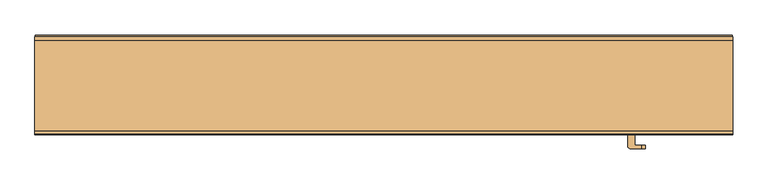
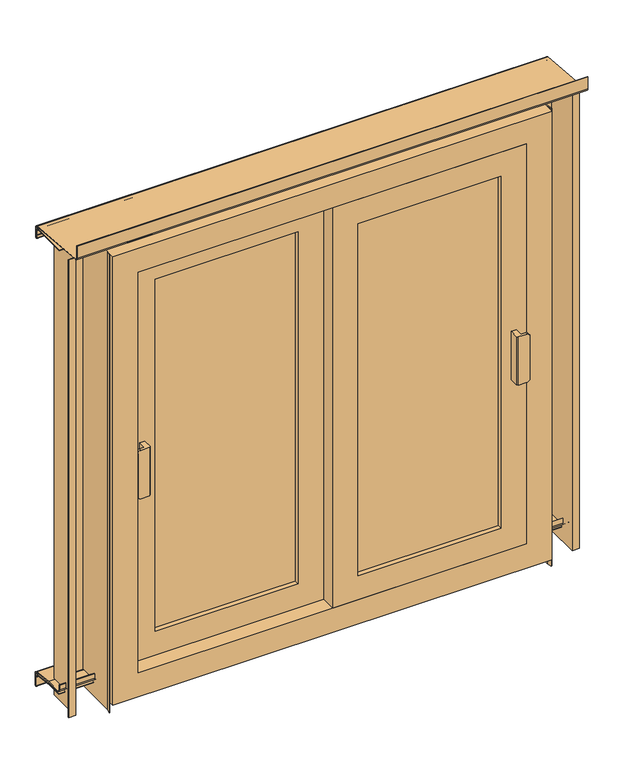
"""IFC4 building model written with IfcOpenShell, lengths in millimetres: door geometry, Fenetre pour Tenda Horizontal : Fenetre pour Tenda H."""

from ifc_helpers import new_model, si_unit, point, frame, frame_2d, origin, place, context, project, spatial, polyline, circle_curve, trimmed, segment, composite_curve, outline, extrude, faceted_brep, source, transform, mapped, element, save
from ifc_brep_helpers import plane_surface, cylinder_surface, advanced_brep


def door_d6fd2e2d(model_context):
    return source(origin(), model_context, "Body", "SolidModel", [
        advanced_brep(
        [(350.0, -60.7721751, 400.0), (350.0, -43.2408569, 400.0), (360.0, -43.2408569, 400.0), (360.0, -58.2408569, 400.0), (369.0477825, -58.2408569, 400.0), (369.0477825, -63.2408569, 400.0), (352.4686818, -63.2408569, 400.0), (350.0, -60.7721751, 500.0), (352.4686818, -63.2408569, 500.0), (369.0477825, -63.2408569, 500.0), (369.0477825, -58.2408569, 500.0), (360.0, -58.2408569, 500.0), (360.0, -43.2408569, 500.0), (350.0, -43.2408569, 500.0), (375.0, -58.2408569, 494.0477825), (375.0, -58.2408569, 405.9522175), (375.0, -63.2408569, 494.0477825), (375.0, -63.2408569, 405.9522175)],
        [
            (0, 1),
            (1, 2),
            (2, 3),
            (3, 4),
            (4, 5),
            (5, 6),
            (6, 0),
            (7, 8),
            (8, 9),
            (9, 10),
            (10, 11),
            (11, 12),
            (12, 13),
            (13, 7),
            (0, 7),
            (13, 1),
            (12, 2),
            (11, 3),
            (10, 14, circle_curve(frame((369.0477825, -58.2408569, 494.0477825), z_axis=(0.0, 1.0, 0.0), x_axis=(1.0, 0.0, 0.0)), 5.9522175)),
            (14, 15),
            (15, 4, circle_curve(frame((369.0477825, -58.2408569, 405.9522175), z_axis=(0.0, 1.0, 0.0), x_axis=(1.0, 0.0, 0.0)), 5.9522175)),
            (14, 16),
            (16, 17),
            (17, 15),
            (8, 6),
            (5, 17, circle_curve(frame((369.0477825, -63.2408569, 405.9522175), z_axis=(0.0, -1.0, 0.0), x_axis=(1.0, 0.0, 0.0)), 5.9522175)),
            (16, 9, circle_curve(frame((369.0477825, -63.2408569, 494.0477825), z_axis=(0.0, -1.0, 0.0), x_axis=(1.0, 0.0, 0.0)), 5.9522175)),
        ],
        [
            plane_surface(frame((350.0, -43.2408569, 400.0), z_axis=(0.0, 0.0, -1.0), x_axis=(0.0, 1.0, 0.0))),
            plane_surface(frame((350.0, -43.2408569, 500.0), z_axis=(0.0, 0.0, 1.0), x_axis=(0.0, -1.0, 0.0))),
            plane_surface(frame((350.0, -60.7721751, 400.0), z_axis=(-1.0, 0.0, 0.0), x_axis=(0.0, 0.0, 1.0))),
            plane_surface(frame((350.0, -43.2408569, 400.0), z_axis=(0.0, 1.0, 0.0), x_axis=(0.0, 0.0, 1.0))),
            plane_surface(frame((360.0, -43.2408569, 400.0), z_axis=(1.0, 0.0, 0.0), x_axis=(0.0, 0.0, 1.0))),
            plane_surface(frame((360.0, -58.2408569, 400.0), z_axis=(0.0, 1.0, 0.0), x_axis=(0.0, 0.0, 1.0))),
            plane_surface(frame((375.0, -58.2408569, 400.0), z_axis=(1.0, 0.0, 0.0), x_axis=(0.0, 0.0, 1.0))),
            plane_surface(frame((375.0, -63.2408569, 400.0), z_axis=(0.0, -1.0, 0.0), x_axis=(0.0, 0.0, 1.0))),
            plane_surface(frame((352.4686818, -63.2408569, 400.0), z_axis=(-0.7071067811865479, -0.7071067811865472, 0.0), x_axis=(0.0, 0.0, 1.0))),
            cylinder_surface(frame((369.0477825, -58.2408569, 494.0477825), z_axis=(0.0, 1.0, 0.0), x_axis=(1.0, 0.0, 0.0)), 5.9522175),
            cylinder_surface(frame((369.0477825, -58.2408569, 405.9522175), z_axis=(0.0, 1.0, 0.0), x_axis=(1.0, 0.0, 0.0)), 5.9522175),
        ],
        [
            (0, [[1, 2, 3, 4, 5, 6, 7]]),
            (1, [[8, 9, 10, 11, 12, 13, 14]]),
            (2, [[-1, 15, -14, 16]]),
            (3, [[-2, -16, -13, 17]]),
            (4, [[-3, -17, -12, 18]]),
            (5, [[-18, -11, 19, 20, 21, -4]]),
            (6, [[-20, 22, 23, 24]]),
            (7, [[25, -6, 26, -23, 27, -9]]),
            (8, [[-7, -25, -8, -15]]),
            (9, [[-10, -27, -22, -19]]),
            (10, [[-5, -21, -24, -26]]),
        ],
    ),
        advanced_brep(
        [(-350.0, -30.7721751, 400.0), (-352.4686818, -33.2408569, 400.0), (-369.0477825, -33.2408569, 400.0), (-369.0477825, -28.2408569, 400.0), (-360.0, -28.2408569, 400.0), (-360.0, -13.2408569, 400.0), (-350.0, -13.2408569, 400.0), (-350.0, -30.7721751, 500.0), (-350.0, -13.2408569, 500.0), (-360.0, -13.2408569, 500.0), (-360.0, -28.2408569, 500.0), (-369.0477825, -28.2408569, 500.0), (-369.0477825, -33.2408569, 500.0), (-352.4686818, -33.2408569, 500.0), (-375.0, -28.2408569, 405.9522175), (-375.0, -28.2408569, 494.0477825), (-375.0, -33.2408569, 405.9522175), (-375.0, -33.2408569, 494.0477825)],
        [
            (0, 1),
            (1, 2),
            (2, 3),
            (3, 4),
            (4, 5),
            (5, 6),
            (6, 0),
            (7, 8),
            (8, 9),
            (9, 10),
            (10, 11),
            (11, 12),
            (12, 13),
            (13, 7),
            (6, 8),
            (7, 0),
            (5, 9),
            (4, 10),
            (3, 14, circle_curve(frame((-369.0477825, -28.2408569, 405.9522175), z_axis=(0.0, 1.0, 0.0), x_axis=(-1.0, 0.0, 0.0)), 5.9522175)),
            (14, 15),
            (15, 11, circle_curve(frame((-369.0477825, -28.2408569, 494.0477825), z_axis=(0.0, 1.0, 0.0), x_axis=(-1.0, 0.0, 0.0)), 5.9522175)),
            (14, 16),
            (16, 17),
            (17, 15),
            (12, 17, circle_curve(frame((-369.0477825, -33.2408569, 494.0477825), z_axis=(0.0, -1.0, 0.0), x_axis=(-1.0, 0.0, 0.0)), 5.9522175)),
            (16, 2, circle_curve(frame((-369.0477825, -33.2408569, 405.9522175), z_axis=(0.0, -1.0, 0.0), x_axis=(-1.0, 0.0, 0.0)), 5.9522175)),
            (1, 13),
        ],
        [
            plane_surface(frame((-350.0, -13.2408569, 400.0), z_axis=(0.0, 0.0, -1.0), x_axis=(0.0, 1.0, 0.0))),
            plane_surface(frame((-350.0, -13.2408569, 500.0), z_axis=(0.0, 0.0, 1.0), x_axis=(0.0, -1.0, 0.0))),
            plane_surface(frame((-350.0, -30.7721751, 400.0), z_axis=(1.0, 0.0, 0.0), x_axis=(0.0, 0.0, 1.0))),
            plane_surface(frame((-350.0, -13.2408569, 400.0), z_axis=(0.0, 1.0, 0.0), x_axis=(0.0, 0.0, 1.0))),
            plane_surface(frame((-360.0, -13.2408569, 400.0), z_axis=(-1.0, 0.0, 0.0), x_axis=(0.0, 0.0, 1.0))),
            plane_surface(frame((-360.0, -28.2408569, 400.0), z_axis=(0.0, 1.0, 0.0), x_axis=(0.0, 0.0, 1.0))),
            plane_surface(frame((-375.0, -28.2408569, 400.0), z_axis=(-1.0, 0.0, 0.0), x_axis=(0.0, 0.0, 1.0))),
            plane_surface(frame((-375.0, -33.2408569, 400.0), z_axis=(0.0, -1.0, 0.0), x_axis=(0.0, 0.0, 1.0))),
            plane_surface(frame((-352.4686818, -33.2408569, 400.0), z_axis=(0.7071067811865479, -0.7071067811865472, 0.0), x_axis=(0.0, 0.0, 1.0))),
            cylinder_surface(frame((-369.0477825, -28.2408569, 494.0477825), z_axis=(0.0, 1.0, 0.0), x_axis=(-1.0, 0.0, 0.0)), 5.9522175),
            cylinder_surface(frame((-369.0477825, -28.2408569, 405.9522175), z_axis=(0.0, 1.0, 0.0), x_axis=(-1.0, 0.0, 0.0)), 5.9522175),
        ],
        [
            (0, [[1, 2, 3, 4, 5, 6, 7]]),
            (1, [[8, 9, 10, 11, 12, 13, 14]]),
            (2, [[15, -8, 16, -7]]),
            (3, [[17, -9, -15, -6]]),
            (4, [[18, -10, -17, -5]]),
            (5, [[-4, 19, 20, 21, -11, -18]]),
            (6, [[22, 23, 24, -20]]),
            (7, [[-13, 25, -23, 26, -2, 27]]),
            (8, [[-16, -14, -27, -1]]),
            (9, [[-21, -24, -25, -12]]),
            (10, [[-26, -22, -19, -3]]),
        ],
    ),
        faceted_brep([(-370.0, 16.7591431, 868.0), (-370.0, 26.7591431, 868.0), (370.0, 26.7591431, 868.0), (370.0, 16.7591431, 868.0), (-380.0, -43.2408569, 878.0), (-380.0, 16.7591431, 878.0), (380.0, 16.7591431, 878.0), (380.0, -43.2408569, 878.0), (-430.0, 26.7591431, 928.0), (-430.0, -43.2408569, 928.0), (430.0, -43.2408569, 928.0), (430.0, 26.7591431, 928.0), (370.0, 26.7591431, 60.0), (370.0, 16.7591431, 60.0), (380.0, 16.7591431, 50.0), (380.0, -43.2408569, 50.0), (430.0, -43.2408569, 0.0), (430.0, 26.7591431, 0.0), (-370.0, 26.7591431, 60.0), (-370.0, 16.7591431, 60.0), (-380.0, 16.7591431, 50.0), (-380.0, -43.2408569, 50.0), (-430.0, -43.2408569, 0.0), (-430.0, 26.7591431, 0.0)], [[[0, 1, 2, 3]], [[4, 5, 6, 7]], [[8, 9, 10, 11]], [[3, 2, 12, 13]], [[7, 6, 14, 15]], [[11, 10, 16, 17]], [[13, 12, 18, 19]], [[15, 14, 20, 21]], [[17, 16, 22, 23]], [[11, 17, 23, 8], [1, 18, 12, 2]], [[19, 18, 1, 0]], [[5, 20, 14, 6], [3, 13, 19, 0]], [[21, 20, 5, 4]], [[9, 22, 16, 10], [7, 15, 21, 4]], [[23, 22, 9, 8]]]),
        extrude(outline(polyline([(878.0, -380.0), (50.0, -380.0), (50.0, 0.0), (878.0, 0.0), (878.0, -380.0)]), holes=[polyline([(828.0, -50.0), (100.0, -50.0), (100.0, -330.0), (828.0, -330.0), (828.0, -50.0)])]), frame((0.0, -13.2408569, 0.0), z_axis=(0.0, 1.0, 0.0), x_axis=(0.0, 0.0, 1.0)), (0.0, 0.0, 1.0), 30.0),
        extrude(outline(polyline([(-330.0, 7.7591431), (-50.0, 7.7591431), (-50.0, -4.2408569), (-330.0, -4.2408569), (-330.0, 7.7591431)])), frame((0.0, 0.0, 100.0), z_axis=(0.0, 0.0, 1.0), x_axis=(1.0, 0.0, 0.0)), (0.0, 0.0, 1.0), 728.0),
        extrude(outline(polyline([(50.0, 380.0), (878.0, 380.0), (878.0, 0.0), (50.0, 0.0), (50.0, 380.0)]), holes=[polyline([(100.0, 50.0), (828.0, 50.0), (828.0, 330.0), (100.0, 330.0), (100.0, 50.0)])]), frame((0.0, -43.2408569, 0.0), z_axis=(0.0, 1.0, 0.0), x_axis=(0.0, 0.0, 1.0)), (0.0, 0.0, 1.0), 30.0),
        extrude(outline(polyline([(50.0, -22.2408569), (330.0, -22.2408569), (330.0, -34.2408569), (50.0, -34.2408569), (50.0, -22.2408569)])), frame((0.0, 0.0, 100.0), z_axis=(0.0, 0.0, 1.0), x_axis=(1.0, 0.0, 0.0)), (0.0, 0.0, 1.0), 728.0),
        extrude(outline(composite_curve([segment(trimmed(circle_curve(frame_2d((91.742772, 927.5442288)), 5.75), [point((92.2439175, 933.2723483))], [point((97.492772, 927.5442288))], False, "CARTESIAN"), True, "CONTINUOUS"), segment(polyline([(97.492772, 927.5442288), (97.492772, 910.0809)]), True, "CONTINUOUS"), segment(trimmed(circle_curve(frame_2d((94.492772, 910.0809)), 3.0), [point((97.492772, 910.0809))], [point((91.492772, 910.0809))], False, "CARTESIAN"), True, "CONTINUOUS"), segment(polyline([(91.492772, 910.0809), (91.492772, 915.0809), (92.492772, 915.0809), (92.492772, 910.0809)]), True, "CONTINUOUS"), segment(trimmed(circle_curve(frame_2d((94.492772, 910.0809)), 2.0), [point((92.492772, 910.0809))], [point((96.492772, 910.0809))], True, "CARTESIAN"), True, "CONTINUOUS"), segment(polyline([(96.492772, 910.0809), (96.492772, 927.315146)]), True, "CONTINUOUS"), segment(trimmed(circle_curve(frame_2d((91.492772, 927.315146)), 5.0), [point((96.492772, 927.315146))], [point((91.9285507, 932.2961195))], True, "CARTESIAN"), True, "CONTINUOUS"), segment(polyline([(91.9285507, 932.2961195), (-37.9920024, 943.6626951)]), True, "CONTINUOUS"), segment(trimmed(circle_curve(frame_2d((-37.4908569, 949.3908146)), 5.75), [point((-37.9920024, 943.6626951))], [point((-43.2408569, 949.3908146))], False, "CARTESIAN"), True, "CONTINUOUS"), segment(polyline([(-43.2408569, 949.3908146), (-43.2408569, 974.1633549), (-42.2408569, 974.1633549), (-42.2408569, 949.6198974)]), True, "CONTINUOUS"), segment(trimmed(circle_curve(frame_2d((-37.2408569, 949.6198974)), 5.0), [point((-42.2408569, 949.6198974))], [point((-37.6766356, 944.6389239))], True, "CARTESIAN"), True, "CONTINUOUS"), segment(polyline([(-37.6766356, 944.6389239), (92.2439175, 933.2723483)]), True, "CONTINUOUS")], self_intersect=False)), frame((-500.0, 0.0, 0.0), z_axis=(1.0, 0.0, 0.0), x_axis=(0.0, 1.0, 0.0)), (0.0, 0.0, 1.0), 1000.0),
        extrude(outline(composite_curve([segment(trimmed(circle_curve(frame_2d((89.242772, 923.25)), 5.75), [point((89.242772, 929.0))], [point((94.992772, 923.25))], False, "CARTESIAN"), True, "CONTINUOUS"), segment(polyline([(94.992772, 923.25), (94.992772, 913.0), (93.992772, 913.0), (93.992772, 923.0)]), True, "CONTINUOUS"), segment(trimmed(circle_curve(frame_2d((88.992772, 923.0)), 5.0), [point((93.992772, 923.0))], [point((88.992772, 928.0))], True, "CARTESIAN"), True, "CONTINUOUS"), segment(polyline([(88.992772, 928.0), (16.7591431, 928.0), (16.7591431, 929.0), (89.242772, 929.0)]), True, "CONTINUOUS")], self_intersect=False)), frame((-500.0, 0.0, 0.0), z_axis=(1.0, 0.0, 0.0), x_axis=(0.0, 1.0, 0.0)), (0.0, 0.0, 1.0), 1000.0),
        extrude(outline(composite_curve([segment(trimmed(circle_curve(frame_2d((22.5091431, 19.5993885)), 5.75), [point((22.5091431, 13.8493885))], [point((16.7591431, 19.5993885))], False, "CARTESIAN"), True, "CONTINUOUS"), segment(polyline([(16.7591431, 19.5993885), (16.7591431, 29.7657197), (17.7591431, 29.7657197), (17.7591431, 19.7657197)]), True, "CONTINUOUS"), segment(trimmed(circle_curve(frame_2d((22.7591431, 19.7657197)), 5.0), [point((17.7591431, 19.7657197))], [point((22.7591431, 14.7657197))], True, "CARTESIAN"), True, "CONTINUOUS"), segment(polyline([(22.7591431, 14.7657197), (53.6757766, 14.7657197), (94.8343667, 9.6057488)]), True, "CONTINUOUS"), segment(trimmed(circle_curve(frame_2d((94.1190997, 3.9004098)), 5.75), [point((94.8343667, 9.6057488))], [point((99.8690997, 3.9004098))], False, "CARTESIAN"), True, "CONTINUOUS"), segment(polyline([(99.8690997, 3.9004098), (99.8690997, -18.5280564)]), True, "CONTINUOUS"), segment(trimmed(circle_curve(frame_2d((97.3690997, -18.5254444)), 2.5000014), [point((99.8690997, -18.5280564))], [point((94.8690997, -18.5280564))], False, "CARTESIAN"), True, "CONTINUOUS"), segment(polyline([(94.8690997, -18.5280564), (94.8690997, -1.0254457), (95.8690997, -1.0254457), (95.8690997, -18.5280564)]), True, "CONTINUOUS"), segment(trimmed(circle_curve(frame_2d((97.3690997, -18.5571543)), 1.5002822), [point((95.8690997, -18.5280564))], [point((98.8690997, -18.5280564))], True, "CARTESIAN"), True, "CONTINUOUS"), segment(polyline([(98.8690997, -18.5280564), (98.8690997, 3.6459235)]), True, "CONTINUOUS"), segment(trimmed(circle_curve(frame_2d((93.8690997, 3.6459235)), 5.0), [point((98.8690997, 3.6459235))], [point((94.491071, 8.6070879))], True, "CARTESIAN"), True, "CONTINUOUS"), segment(polyline([(94.491071, 8.6070879), (52.6757766, 13.8493885), (22.5091431, 13.8493885)]), True, "CONTINUOUS")], self_intersect=False)), frame((-499.7838213, 0.0, 0.0), z_axis=(1.0, 0.0, 0.0), x_axis=(0.0, 1.0, 0.0)), (0.0, 0.0, 1.0), 999.5676427),
        extrude(outline(composite_curve([segment(trimmed(circle_curve(frame_2d((92.2656457, -0.5602154)), 5.75), [point((92.9885508, 5.1441609))], [point((98.0156457, -0.5602154))], False, "CARTESIAN"), True, "CONTINUOUS"), segment(polyline([(98.0156457, -0.5602154), (98.0156457, -18.7572246), (97.0156457, -18.7572246), (97.0156457, -0.8155942)]), True, "CONTINUOUS"), segment(trimmed(circle_curve(frame_2d((92.0156457, -0.8155942)), 5.0), [point((97.0156457, -0.8155942))], [point((92.6442588, 4.144733))], True, "CARTESIAN"), True, "CONTINUOUS"), segment(polyline([(92.6442588, 4.144733), (52.4234998, 9.2418357), (20.0166386, 9.2418357), (20.0166386, 10.1581669), (53.4234998, 10.1581669), (92.9885508, 5.1441609)]), True, "CONTINUOUS")], self_intersect=False)), frame((-499.7838213, 0.0, 0.0), z_axis=(1.0, 0.0, 0.0), x_axis=(0.0, 1.0, 0.0)), (0.0, 0.0, 1.0), 999.5676427),
        extrude(outline(polyline([(430.0, -26.7620699), (430.0, 56.7591431), (487.2054608, 56.7591431), (487.2054608, -13.2408569), (499.7838213, -13.2408569), (500.0, -14.2578975), (486.2054608, -14.2578975), (486.2054608, 55.7591431), (431.0, 55.7591431), (431.0, -26.6304174), (433.6043568, -36.3500091), (432.6384309, -36.6088282), (430.0, -26.7620699)])), frame((0.0, 0.0, -18.5280564), z_axis=(0.0, 0.0, 1.0), x_axis=(1.0, 0.0, 0.0)), (0.0, 0.0, 1.0), 946.5280564),
        extrude(outline(polyline([(-430.0, -26.7620699), (-432.6384309, -36.6088282), (-433.6043568, -36.3500091), (-431.0, -26.6304174), (-431.0, 55.7591431), (-486.2054608, 55.7591431), (-486.2054608, -14.2578975), (-500.0, -14.2578975), (-499.7838213, -13.2408569), (-487.2054608, -13.2408569), (-487.2054608, 56.7591431), (-430.0, 56.7591431), (-430.0, -26.7620699)])), frame((0.0, 0.0, -18.7572246), z_axis=(0.0, 0.0, 1.0), x_axis=(1.0, 0.0, 0.0)), (0.0, 0.0, 1.0), 946.7572246),
    ])


if __name__ == "__main__":
    model = new_model("IFC4")
    model_context = context("Model", 3, world=origin())
    ifc_project = project(units=[si_unit("LENGTHUNIT", "METRE", prefix="MILLI")], contexts=[model_context])
    site = spatial("IfcSite", under=ifc_project)
    building = spatial("IfcBuilding", under=site)
    placement = place(None, origin())
    door_shape = door_d6fd2e2d(model_context)
    element("IfcDoor", 1, ObjectType="Fenetre pour Tenda Horizontal : Fenetre pour Tenda H", at=placement, inside=building, context=model_context, shape_type="MappedRepresentation", body=[
        mapped(door_shape, transform((0.0, 0.0, 0.0), x_axis=(1.0, 0.0, 0.0), y_axis=(0.0, 1.0, 0.0), z_axis=(0.0, 0.0, 1.0))),
    ])
    save(model, "model.ifc")
